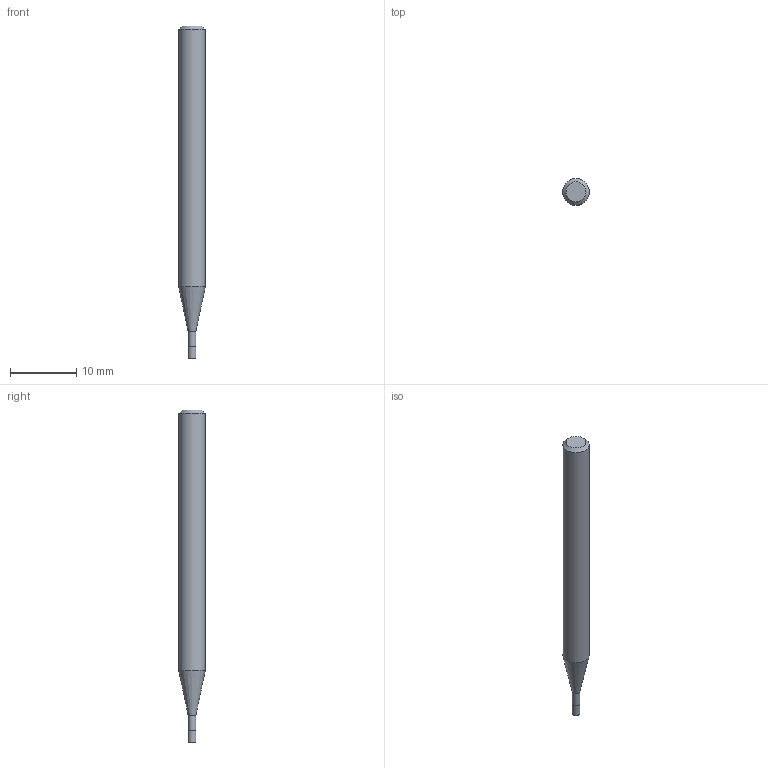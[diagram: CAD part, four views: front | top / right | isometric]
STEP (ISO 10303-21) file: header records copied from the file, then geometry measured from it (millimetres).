
FILE_DESCRIPTION((''),'2;1');
FILE_NAME('C:\Users\nsx150\AppData\Local\Temp\Mastercam 2021\17T8Q8S9EB\TEMP.step','2021-04-21T14:26:09',(''),(''),'STEP Write','Mastercam 2021 ... CNC Software, Inc.','');
FILE_SCHEMA(('AUTOMOTIVE_DESIGN'));
Length unit declared in the file: millimetre
Products named in the file (1): None
Bounding box: 4 x 4 x 50 mm (x, y, z)
Volume: 535.2 mm3; surface area: 575.8 mm2
Topology: 2 solids, 2 shells, 9 faces, 12 edges, 7 vertices
Faces by surface type: plane 4, cylinder 3, cone 2
Full cylindrical faces by diameter (mm): 1.15 x1, 1.2 x1, 4 x1
Entity records: 211 total; most frequent: DIRECTION 36, CARTESIAN_POINT 25, AXIS2_PLACEMENT_3D 18, ORIENTED_EDGE 14, EDGE_LOOP 14, STYLED_ITEM 12, ADVANCED_FACE 9, FACE_BOUND 8
